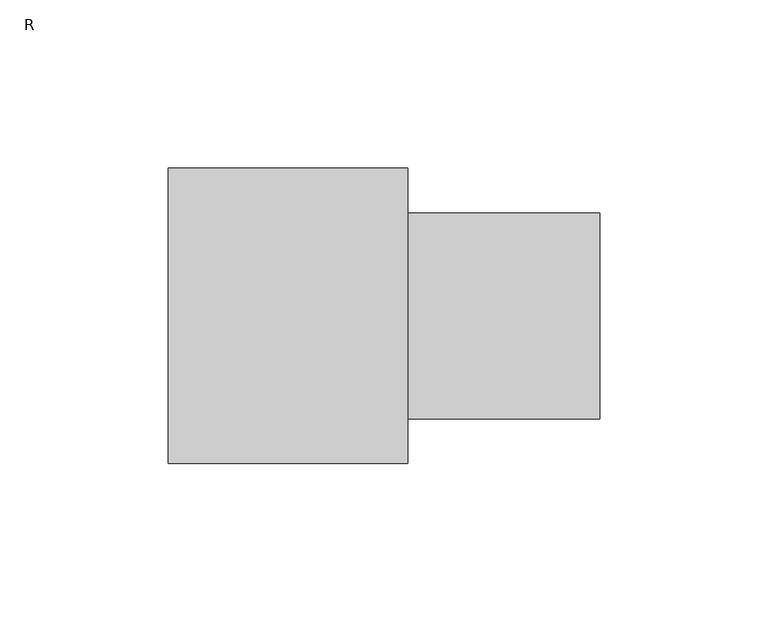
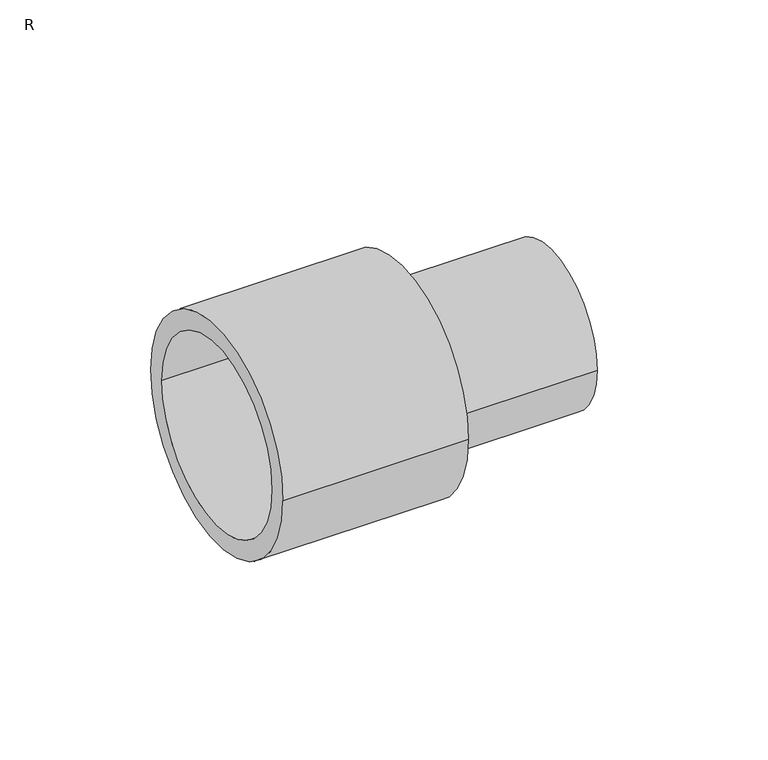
"""IFC4 building model written with IfcOpenShell, lengths in millimetres: pipe fitting geometry, FUSAPEX reducer : R."""

from ifc_helpers import new_model, si_unit, frame, origin, place, context, project, spatial, polyline, circle_curve, source, transform, mapped, element, save
from ifc_brep_helpers import plane_surface, cylinder_surface, revolved_surface, advanced_brep


def r_07258758(model_context):
    return source(origin(), model_context, "Body", "AdvancedBrep", [
        advanced_brep(
        [(-71.0, 36.5, 0.0), (-71.0, -36.5, 0.0), (-13.0, -36.5, 0.0), (-13.0, 36.5, 0.0), (0.0, 43.85, 0.0), (0.0, -43.85, 0.0), (-71.0, -43.85, 0.0), (-71.0, 43.85, 0.0), (57.0, 30.55, 0.0), (57.0, -30.55, 0.0), (0.0, -30.55, 0.0), (0.0, 30.55, 0.0), (-13.0, 25.25, 0.0), (-13.0, -25.25, 0.0), (57.0, -25.25, 0.0), (57.0, 25.25, 0.0)],
        [
            (0, 1, circle_curve(frame((-71.0, 0.0, 0.0), z_axis=(-1.0, 0.0, 0.0), x_axis=(0.0, -1.0, 0.0)), 36.5)),
            (1, 2),
            (2, 3, circle_curve(frame((-13.0, 0.0, 0.0), z_axis=(1.0, 0.0, 0.0), x_axis=(0.0, -1.0, 0.0)), 36.5)),
            (3, 0),
            (4, 5, circle_curve(frame((0.0, 0.0, 0.0), z_axis=(-1.0, 0.0, 0.0), x_axis=(0.0, -1.0, 0.0)), 43.85)),
            (5, 6),
            (6, 7, circle_curve(frame((-71.0, 0.0, 0.0), z_axis=(1.0, 0.0, 0.0), x_axis=(0.0, -1.0, 0.0)), 43.85)),
            (7, 4),
            (8, 9, circle_curve(frame((57.0, 0.0, 0.0), z_axis=(-1.0, 0.0, 0.0), x_axis=(0.0, -1.0, 0.0)), 30.55)),
            (9, 10),
            (10, 11, circle_curve(frame((0.0, 0.0, 0.0), z_axis=(1.0, 0.0, 0.0), x_axis=(0.0, -1.0, 0.0)), 30.55)),
            (11, 8),
            (12, 13, circle_curve(frame((-13.0, 0.0, 0.0), z_axis=(-1.0, 0.0, 0.0), x_axis=(0.0, -1.0, 0.0)), 25.25)),
            (13, 14),
            (14, 15, circle_curve(frame((57.0, 0.0, 0.0), z_axis=(1.0, 0.0, 0.0), x_axis=(0.0, -1.0, 0.0)), 25.25)),
            (15, 12),
            (1, 0, circle_curve(frame((-71.0, 0.0, 0.0), z_axis=(-1.0, 0.0, 0.0), x_axis=(0.0, 1.0, 0.0)), 36.5)),
            (3, 2, circle_curve(frame((-13.0, 0.0, 0.0), z_axis=(1.0, 0.0, 0.0), x_axis=(0.0, 1.0, 0.0)), 36.5)),
            (6, 7, circle_curve(frame((-71.0, 0.0, 0.0), z_axis=(-1.0, 0.0, 0.0), x_axis=(0.0, 1.0, 0.0)), 43.85)),
            (5, 4, circle_curve(frame((0.0, 0.0, 0.0), z_axis=(-1.0, 0.0, 0.0), x_axis=(0.0, 1.0, 0.0)), 43.85)),
            (10, 11, circle_curve(frame((0.0, 0.0, 0.0), z_axis=(-1.0, 0.0, 0.0), x_axis=(0.0, 1.0, 0.0)), 30.55)),
            (9, 8, circle_curve(frame((57.0, 0.0, 0.0), z_axis=(-1.0, 0.0, 0.0), x_axis=(0.0, 1.0, 0.0)), 30.55)),
            (14, 15, circle_curve(frame((57.0, 0.0, 0.0), z_axis=(-1.0, 0.0, 0.0), x_axis=(0.0, 1.0, 0.0)), 25.25)),
            (13, 12, circle_curve(frame((-13.0, 0.0, 0.0), z_axis=(-1.0, 0.0, 0.0), x_axis=(0.0, 1.0, 0.0)), 25.25)),
        ],
        [
            revolved_surface(polyline([(-13.0, -36.5, 0.0), (-71.0, -36.5, 0.0)]), (0.0, 0.0, 0.0), (1.0, 0.0, 0.0)),
            cylinder_surface(frame((0.0, 0.0, 0.0), z_axis=(1.0, 0.0, 0.0), x_axis=(0.0, -1.0, 0.0)), 43.85),
            cylinder_surface(frame((0.0, 0.0, 0.0), z_axis=(1.0, 0.0, 0.0), x_axis=(0.0, -1.0, 0.0)), 30.55),
            revolved_surface(polyline([(57.0, -25.25, 0.0), (-13.0, -25.25, 0.0)]), (0.0, 0.0, 0.0), (1.0, 0.0, 0.0)),
            revolved_surface(polyline([(-13.0, 36.5, 0.0), (-71.0, 36.5, 0.0)]), (0.0, 0.0, 0.0), (1.0, 0.0, 0.0)),
            plane_surface(frame((-71.0, 0.0, 0.0), z_axis=(-1.0, 0.0, 0.0), x_axis=(0.0, 1.0, 0.0))),
            cylinder_surface(frame((0.0, 0.0, 0.0), z_axis=(1.0, 0.0, 0.0), x_axis=(0.0, 1.0, 0.0)), 43.85),
            plane_surface(frame((0.0, 0.0, 0.0), z_axis=(1.0, 0.0, 0.0), x_axis=(0.0, 1.0, 0.0))),
            cylinder_surface(frame((0.0, 0.0, 0.0), z_axis=(1.0, 0.0, 0.0), x_axis=(0.0, 1.0, 0.0)), 30.55),
            plane_surface(frame((57.0, 0.0, 0.0), z_axis=(1.0, 0.0, 0.0), x_axis=(0.0, 1.0, 0.0))),
            revolved_surface(polyline([(57.0, 25.25, 0.0), (-13.0, 25.25, 0.0)]), (0.0, 0.0, 0.0), (1.0, 0.0, 0.0)),
            plane_surface(frame((-13.0, 0.0, 0.0), z_axis=(-1.0, 0.0, 0.0), x_axis=(0.0, 1.0, 0.0))),
        ],
        [
            (0, [[1, 2, 3, 4]]),
            (1, [[5, 6, 7, 8]]),
            (2, [[9, 10, 11, 12]]),
            (3, [[13, 14, 15, 16]]),
            (4, [[17, -4, 18, -2]]),
            (5, [[19, -7], [-17, -1]]),
            (6, [[20, -8, -19, -6]]),
            (7, [[-20, -5], [21, -11]]),
            (8, [[22, -12, -21, -10]]),
            (9, [[-22, -9], [23, -15]]),
            (10, [[24, -16, -23, -14]]),
            (11, [[-18, -3], [-24, -13]]),
        ],
    ),
    ])


if __name__ == "__main__":
    model = new_model("IFC4")
    model_context = context("Model", 3, world=origin())
    ifc_project = project(units=[si_unit("LENGTHUNIT", "METRE", prefix="MILLI")], contexts=[model_context])
    site = spatial("IfcSite", under=ifc_project)
    building = spatial("IfcBuilding", under=site)
    placement = place(None, origin())
    r_shape = r_07258758(model_context)
    element("IfcPipeFitting", 1, ObjectType="FUSAPEX reducer : R", at=placement, inside=building, context=model_context, shape_type="MappedRepresentation", body=[
        mapped(r_shape, transform((0.0, 0.0, 0.0), x_axis=(1.0, 0.0, 0.0), y_axis=(0.0, 1.0, 0.0), z_axis=(0.0, 0.0, 1.0))),
    ])
    save(model, "model.ifc")
